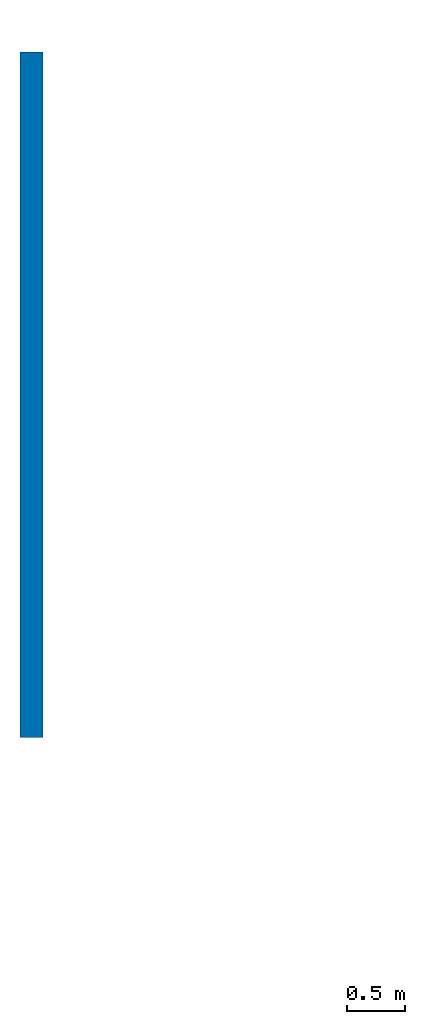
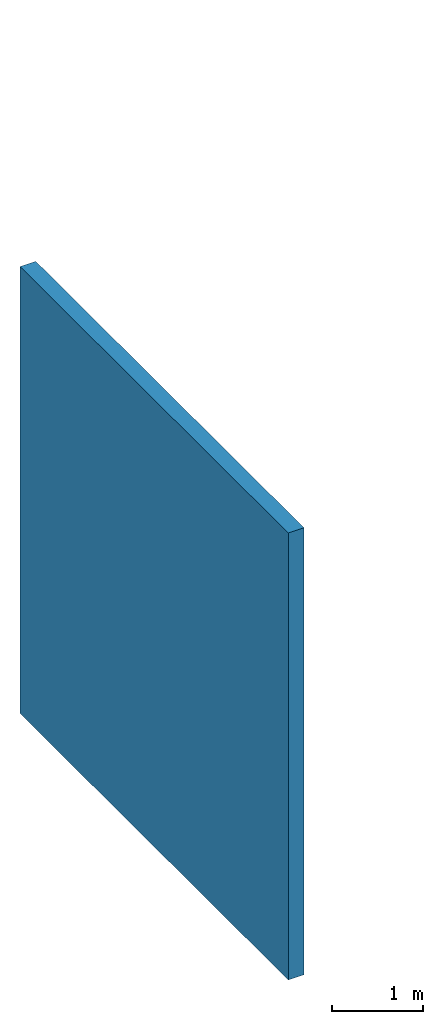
# One storey, part 1 of 2: 1 wall.
"""IFC2X3 building model written with IfcOpenShell, lengths in metres."""

from ifc_helpers import new_model, entity, si_unit, converted_unit, derived_unit, direction, frame, frame_2d, origin, place, context, subcontext, project, spatial, rectangle, extrude, material, layer, layer_set, layer_usage, type_object, element, save


model = new_model("IFC2X3")

# Units and contexts
model_context = context("Model", 3, precision=1e-05, world=origin(), true_north=direction((6.12303176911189e-17, 1.0)))
body_context = subcontext(model_context, "Body", "Model", "MODEL_VIEW")
ifc_project = project(units=[si_unit("LENGTHUNIT", "METRE"), si_unit("AREAUNIT", "SQUARE_METRE"), si_unit("VOLUMEUNIT", "CUBIC_METRE"), converted_unit("PLANEANGLEUNIT", "DEGREE", entity("IfcRatioMeasure", 0.0174532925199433), si_unit("PLANEANGLEUNIT", "RADIAN"), dimensions=[0, 0, 0, 0, 0, 0, 0]), si_unit("MASSUNIT", "GRAM", prefix="KILO"), derived_unit("MASSDENSITYUNIT", [(si_unit("MASSUNIT", "GRAM", prefix="KILO"), 1), (si_unit("LENGTHUNIT", "METRE"), -3)]), derived_unit("MOMENTOFINERTIAUNIT", [(si_unit("LENGTHUNIT", "METRE"), 4)]), si_unit("TIMEUNIT", "SECOND"), si_unit("FREQUENCYUNIT", "HERTZ"), si_unit("THERMODYNAMICTEMPERATUREUNIT", "DEGREE_CELSIUS"), derived_unit("THERMALTRANSMITTANCEUNIT", [(si_unit("MASSUNIT", "GRAM", prefix="KILO"), 1), (si_unit("THERMODYNAMICTEMPERATUREUNIT", "KELVIN"), -1), (si_unit("TIMEUNIT", "SECOND"), -3)]), derived_unit("VOLUMETRICFLOWRATEUNIT", [(si_unit("LENGTHUNIT", "METRE"), 3), (si_unit("TIMEUNIT", "SECOND"), -1)]), si_unit("ELECTRICCURRENTUNIT", "AMPERE"), si_unit("ELECTRICVOLTAGEUNIT", "VOLT"), si_unit("POWERUNIT", "WATT"), si_unit("FORCEUNIT", "NEWTON", prefix="KILO"), si_unit("ILLUMINANCEUNIT", "LUX"), si_unit("LUMINOUSFLUXUNIT", "LUMEN"), si_unit("LUMINOUSINTENSITYUNIT", "CANDELA"), derived_unit("USERDEFINED", [(si_unit("MASSUNIT", "GRAM", prefix="KILO"), -1), (si_unit("LENGTHUNIT", "METRE"), -2), (si_unit("TIMEUNIT", "SECOND"), 3), (si_unit("LUMINOUSFLUXUNIT", "LUMEN"), 1)]), derived_unit("LINEARVELOCITYUNIT", [(si_unit("LENGTHUNIT", "METRE"), 1), (si_unit("TIMEUNIT", "SECOND"), -1)]), si_unit("PRESSUREUNIT", "PASCAL"), derived_unit("USERDEFINED", [(si_unit("LENGTHUNIT", "METRE"), -2), (si_unit("MASSUNIT", "GRAM", prefix="KILO"), 1), (si_unit("TIMEUNIT", "SECOND"), -2)]), derived_unit("LINEARFORCEUNIT", [(si_unit("MASSUNIT", "GRAM", prefix="KILO"), 1), (si_unit("LENGTHUNIT", "METRE"), 1), (si_unit("TIMEUNIT", "SECOND"), -2), (si_unit("LENGTHUNIT", "METRE"), -1)]), derived_unit("PLANARFORCEUNIT", [(si_unit("MASSUNIT", "GRAM", prefix="KILO"), 1), (si_unit("LENGTHUNIT", "METRE"), 1), (si_unit("TIMEUNIT", "SECOND"), -2), (si_unit("LENGTHUNIT", "METRE"), -2)])], contexts=[model_context])

# Site, building, storey
site_placement = place(None, frame((0.0, 0.0, 57.0)))
site = spatial("IfcSite", under=ifc_project, at=site_placement, Name="Default", CompositionType="ELEMENT")
building_placement = place(site_placement, origin())
building = spatial("IfcBuilding", under=site, at=building_placement, CompositionType="ELEMENT")
storey_placement = place(building_placement, frame((0.0, 0.0, 1.0)))
storey = spatial("IfcBuildingStorey", under=building, at=storey_placement, Name="Level 1", CompositionType="ELEMENT", Elevation=1.0)

# Wall
ifc_material = material(Name="Default Wall")
ifc_layer = layer(ifc_material, 0.2)
ifc_layer_set = layer_set([ifc_layer], Name="Basic Wall:Generic - 200mm")
ifc_layer_usage = layer_usage(ifc_layer_set, "AXIS2", "NEGATIVE", 0.1)
wall_type = type_object("IfcWallType", Name="Basic Wall:Generic - 200mm", PredefinedType="STANDARD", material=ifc_layer_set)
wall_placement = place(storey_placement, frame((6.32007312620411, 2.98930222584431, 0.0), z_axis=(0.0, 0.0, 1.0), x_axis=(0.0, -1.0, 0.0)))
element("IfcWallStandardCase", 1, at=wall_placement, inside=storey, type_object=wall_type, material=ifc_layer_usage, Name="Basic Wall:Generic - 200mm", ObjectType="Basic Wall:Generic - 200mm", context=body_context, shape_type="SweptSolid", body=[
    extrude(rectangle(XDim=5.9, YDim=0.2, at=frame_2d((2.95, -4.16333634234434e-17), x_axis=(-1.0, 0.0))), origin(), (0.0, 0.0, 1.0), 6.0),
])

save(model, "model.ifc")
